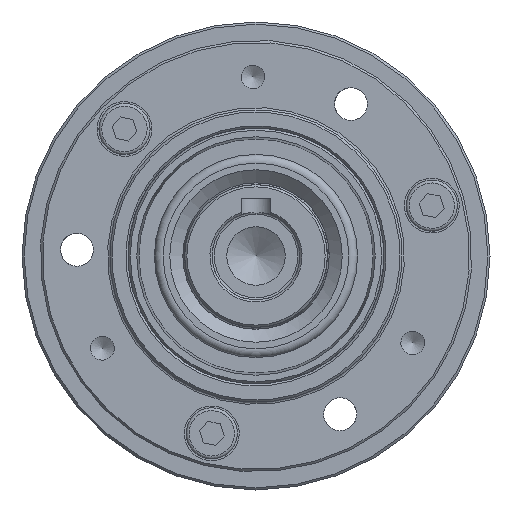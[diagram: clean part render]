
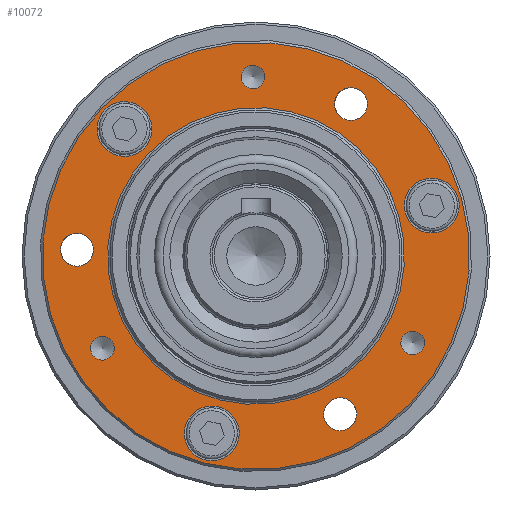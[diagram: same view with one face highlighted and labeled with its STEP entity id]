
A CAD part, left-side view. The second image highlights one B-rep face of the part: STEP entity #10072.
In plain terms, the highlighted planar face has unit normal (-1, 0, 0).
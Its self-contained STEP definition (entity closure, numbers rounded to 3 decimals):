
#1445=PLANE('',#11148);
#1903=FACE_BOUND('',#3204,.T.);
#1904=FACE_BOUND('',#3205,.T.);
#1905=FACE_BOUND('',#3206,.T.);
#1906=FACE_BOUND('',#3207,.T.);
#1907=FACE_BOUND('',#3208,.T.);
#1908=FACE_BOUND('',#3209,.T.);
#1909=FACE_BOUND('',#3210,.T.);
#1910=FACE_BOUND('',#3211,.T.);
#1911=FACE_BOUND('',#3212,.T.);
#1912=FACE_BOUND('',#3213,.T.);
#2393=FACE_OUTER_BOUND('',#3203,.T.);
#3203=EDGE_LOOP('',(#7780));
#3204=EDGE_LOOP('',(#7781));
#3205=EDGE_LOOP('',(#7782));
#3206=EDGE_LOOP('',(#7783));
#3207=EDGE_LOOP('',(#7784));
#3208=EDGE_LOOP('',(#7785));
#3209=EDGE_LOOP('',(#7786));
#3210=EDGE_LOOP('',(#7787));
#3211=EDGE_LOOP('',(#7788));
#3212=EDGE_LOOP('',(#7789));
#3213=EDGE_LOOP('',(#7790));
#4068=CIRCLE('',#11136,2.25);
#4070=CIRCLE('',#11139,2.25);
#4072=CIRCLE('',#11142,2.25);
#4075=CIRCLE('',#11147,20.3);
#4076=CIRCLE('',#11149,29.2);
#4077=CIRCLE('',#11150,1.621);
#4078=CIRCLE('',#11151,1.621);
#4079=CIRCLE('',#11152,1.621);
#4080=CIRCLE('',#11153,3.75);
#4081=CIRCLE('',#11154,3.75);
#4082=CIRCLE('',#11155,3.75);
#4745=VERTEX_POINT('',#16492);
#4747=VERTEX_POINT('',#16497);
#4749=VERTEX_POINT('',#16502);
#4752=VERTEX_POINT('',#16510);
#4753=VERTEX_POINT('',#16513);
#4754=VERTEX_POINT('',#16515);
#4755=VERTEX_POINT('',#16517);
#4756=VERTEX_POINT('',#16519);
#4757=VERTEX_POINT('',#16521);
#4758=VERTEX_POINT('',#16523);
#4759=VERTEX_POINT('',#16525);
#5828=EDGE_CURVE('',#4745,#4745,#4068,.T.);
#5830=EDGE_CURVE('',#4747,#4747,#4070,.T.);
#5832=EDGE_CURVE('',#4749,#4749,#4072,.T.);
#5835=EDGE_CURVE('',#4752,#4752,#4075,.T.);
#5836=EDGE_CURVE('',#4753,#4753,#4076,.T.);
#5837=EDGE_CURVE('',#4754,#4754,#4077,.T.);
#5838=EDGE_CURVE('',#4755,#4755,#4078,.T.);
#5839=EDGE_CURVE('',#4756,#4756,#4079,.T.);
#5840=EDGE_CURVE('',#4757,#4757,#4080,.T.);
#5841=EDGE_CURVE('',#4758,#4758,#4081,.T.);
#5842=EDGE_CURVE('',#4759,#4759,#4082,.T.);
#7780=ORIENTED_EDGE('',*,*,#5836,.F.);
#7781=ORIENTED_EDGE('',*,*,#5828,.T.);
#7782=ORIENTED_EDGE('',*,*,#5830,.T.);
#7783=ORIENTED_EDGE('',*,*,#5832,.T.);
#7784=ORIENTED_EDGE('',*,*,#5837,.T.);
#7785=ORIENTED_EDGE('',*,*,#5838,.T.);
#7786=ORIENTED_EDGE('',*,*,#5839,.T.);
#7787=ORIENTED_EDGE('',*,*,#5840,.T.);
#7788=ORIENTED_EDGE('',*,*,#5841,.T.);
#7789=ORIENTED_EDGE('',*,*,#5842,.T.);
#7790=ORIENTED_EDGE('',*,*,#5835,.F.);
#10072=ADVANCED_FACE('',(#2393,#1903,#1904,#1905,#1906,#1907,#1908,#1909,
#1910,#1911,#1912),#1445,.T.);
#11136=AXIS2_PLACEMENT_3D('',#16493,#13303,#13304);
#11139=AXIS2_PLACEMENT_3D('',#16498,#13309,#13310);
#11142=AXIS2_PLACEMENT_3D('',#16503,#13315,#13316);
#11147=AXIS2_PLACEMENT_3D('',#16511,#13325,#13326);
#11148=AXIS2_PLACEMENT_3D('',#16512,#13327,#13328);
#11149=AXIS2_PLACEMENT_3D('',#16514,#13329,#13330);
#11150=AXIS2_PLACEMENT_3D('',#16516,#13331,#13332);
#11151=AXIS2_PLACEMENT_3D('',#16518,#13333,#13334);
#11152=AXIS2_PLACEMENT_3D('',#16520,#13335,#13336);
#11153=AXIS2_PLACEMENT_3D('',#16522,#13337,#13338);
#11154=AXIS2_PLACEMENT_3D('',#16524,#13339,#13340);
#11155=AXIS2_PLACEMENT_3D('',#16526,#13341,#13342);
#13303=DIRECTION('center_axis',(1.,0.,0.));
#13304=DIRECTION('ref_axis',(0.,0.276,0.961));
#13309=DIRECTION('center_axis',(1.,0.,0.));
#13310=DIRECTION('ref_axis',(0.,0.276,0.961));
#13315=DIRECTION('center_axis',(1.,0.,0.));
#13316=DIRECTION('ref_axis',(0.,0.276,0.961));
#13325=DIRECTION('center_axis',(-1.,0.,0.));
#13326=DIRECTION('ref_axis',(0.,-0.961,0.276));
#13327=DIRECTION('center_axis',(-1.,0.,0.));
#13328=DIRECTION('ref_axis',(0.,0.276,0.961));
#13329=DIRECTION('center_axis',(1.,0.,0.));
#13330=DIRECTION('ref_axis',(0.,-0.961,0.276));
#13331=DIRECTION('center_axis',(1.,0.,0.));
#13332=DIRECTION('ref_axis',(0.,0.276,0.961));
#13333=DIRECTION('center_axis',(1.,0.,0.));
#13334=DIRECTION('ref_axis',(0.,0.276,0.961));
#13335=DIRECTION('center_axis',(1.,0.,0.));
#13336=DIRECTION('ref_axis',(0.,0.276,0.961));
#13337=DIRECTION('center_axis',(1.,0.,0.));
#13338=DIRECTION('ref_axis',(0.,0.276,0.961));
#13339=DIRECTION('center_axis',(1.,0.,0.));
#13340=DIRECTION('ref_axis',(0.,0.276,0.961));
#13341=DIRECTION('center_axis',(1.,0.,0.));
#13342=DIRECTION('ref_axis',(0.,0.276,0.961));
#16492=CARTESIAN_POINT('',(3.,-12.122,-23.795));
#16493=CARTESIAN_POINT('Origin',(3.,-11.502,-21.632));
#16497=CARTESIAN_POINT('',(3.,-13.603,18.614));
#16498=CARTESIAN_POINT('Origin',(3.,-12.983,20.777));
#16502=CARTESIAN_POINT('',(3.,23.865,-1.308));
#16503=CARTESIAN_POINT('Origin',(3.,24.485,0.855));
#16510=CARTESIAN_POINT('',(3.,19.514,-5.595));
#16511=CARTESIAN_POINT('Origin',(3.,0.,
0.));
#16512=CARTESIAN_POINT('Origin',(3.,23.791,-6.822));
#16513=CARTESIAN_POINT('',(3.,28.069,-8.049));
#16514=CARTESIAN_POINT('Origin',(3.,0.,
0.));
#16515=CARTESIAN_POINT('',(3.,-0.019,22.938));
#16516=CARTESIAN_POINT('Origin',(3.,0.428,24.496));
#16517=CARTESIAN_POINT('',(3.,20.554,-14.177));
#16518=CARTESIAN_POINT('Origin',(3.,21.001,-12.618));
#16519=CARTESIAN_POINT('',(3.,-21.875,-13.436));
#16520=CARTESIAN_POINT('Origin',(3.,-21.428,-11.878));
#16521=CARTESIAN_POINT('',(3.,16.95,13.762));
#16522=CARTESIAN_POINT('Origin',(3.,17.983,17.366));
#16523=CARTESIAN_POINT('',(3.,5.014,-27.862));
#16524=CARTESIAN_POINT('Origin',(3.,6.048,-24.257));
#16525=CARTESIAN_POINT('',(3.,-25.065,3.286));
#16526=CARTESIAN_POINT('Origin',(3.,-24.032,6.891));
